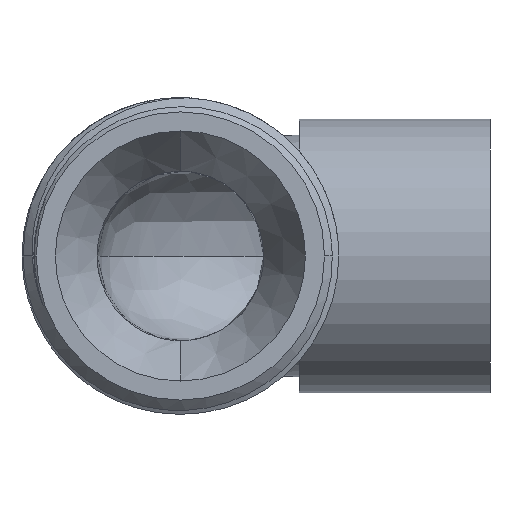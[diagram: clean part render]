
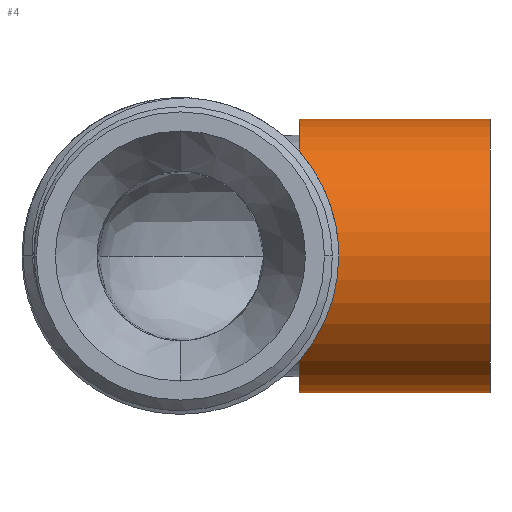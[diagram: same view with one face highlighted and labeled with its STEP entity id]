
A CAD part, front view. The second image highlights one B-rep face of the part: STEP entity #4.
In plain terms, the highlighted cylindrical face has radius 11.5 mm (diameter 23 mm), a partial arc.
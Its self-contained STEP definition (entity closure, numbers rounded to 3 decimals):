
#4 = ADVANCED_FACE ( 'NONE', ( #367 ), #409, .T. ) ;
#21 = ORIENTED_EDGE ( 'NONE', *, *, #22, .F. ) ;
#22 = EDGE_CURVE ( 'NONE', #265, #364, #427, .T. ) ;
#26 = EDGE_LOOP ( 'NONE', ( #92, #45, #46, #21 ) ) ;
#45 = ORIENTED_EDGE ( 'NONE', *, *, #74, .T. ) ;
#46 = ORIENTED_EDGE ( 'NONE', *, *, #365, .T. ) ;
#74 = EDGE_CURVE ( 'NONE', #366, #3174, #1357, .T. ) ;
#92 = ORIENTED_EDGE ( 'NONE', *, *, #264, .F. ) ;
#264 = EDGE_CURVE ( 'NONE', #366, #265, #2386, .T. ) ;
#265 = VERTEX_POINT ( 'NONE', #2414 ) ;
#364 = VERTEX_POINT ( 'NONE', #3058 ) ;
#365 = EDGE_CURVE ( 'NONE', #3174, #364, #3057, .T. ) ;
#366 = VERTEX_POINT ( 'NONE', #3096 ) ;
#367 = FACE_OUTER_BOUND ( 'NONE', #26, .T. ) ;
#405 = DIRECTION ( 'NONE',  ( 0., 0., 1. ) ) ;
#406 = DIRECTION ( 'NONE',  ( -1., 0., 0. ) ) ;
#407 = CARTESIAN_POINT ( 'NONE',  ( 0., 0., 0. ) ) ;
#408 = AXIS2_PLACEMENT_3D ( 'NONE', #407, #406, #405 ) ;
#409 = CYLINDRICAL_SURFACE ( 'NONE', #408, 11.5 ) ;
#423 = DIRECTION ( 'NONE',  ( 0., 0., 1. ) ) ;
#424 = DIRECTION ( 'NONE',  ( -1., 0., 0. ) ) ;
#425 = CARTESIAN_POINT ( 'NONE',  ( 10., 0., 0. ) ) ;
#426 = AXIS2_PLACEMENT_3D ( 'NONE', #425, #424, #423 ) ;
#427 = CIRCLE ( 'NONE', #426, 11.5 ) ;
#1353 = DIRECTION ( 'NONE',  ( 0., 0., 1. ) ) ;
#1354 = DIRECTION ( 'NONE',  ( -1., 0., 0. ) ) ;
#1355 = CARTESIAN_POINT ( 'NONE',  ( 26., 0., 0. ) ) ;
#1356 = AXIS2_PLACEMENT_3D ( 'NONE', #1355, #1354, #1353 ) ;
#1357 = CIRCLE ( 'NONE', #1356, 11.5 ) ;
#2386 = LINE ( 'NONE', #2417, #2416 ) ;
#2414 = CARTESIAN_POINT ( 'NONE',  ( 10., 0., -11.5 ) ) ;
#2415 = DIRECTION ( 'NONE',  ( -1., 0., 0. ) ) ;
#2416 = VECTOR ( 'NONE', #2415, 1000. ) ;
#2417 = CARTESIAN_POINT ( 'NONE',  ( 0., 0., -11.5 ) ) ;
#3054 = DIRECTION ( 'NONE',  ( -1., 0., 0. ) ) ;
#3055 = VECTOR ( 'NONE', #3054, 1000. ) ;
#3056 = CARTESIAN_POINT ( 'NONE',  ( 0., 0., 11.5 ) ) ;
#3057 = LINE ( 'NONE', #3056, #3055 ) ;
#3058 = CARTESIAN_POINT ( 'NONE',  ( 10., 0., 11.5 ) ) ;
#3095 = CARTESIAN_POINT ( 'NONE',  ( 26., 0., 11.5 ) ) ;
#3096 = CARTESIAN_POINT ( 'NONE',  ( 26., 0., -11.5 ) ) ;
#3174 = VERTEX_POINT ( 'NONE', #3095 ) ;
